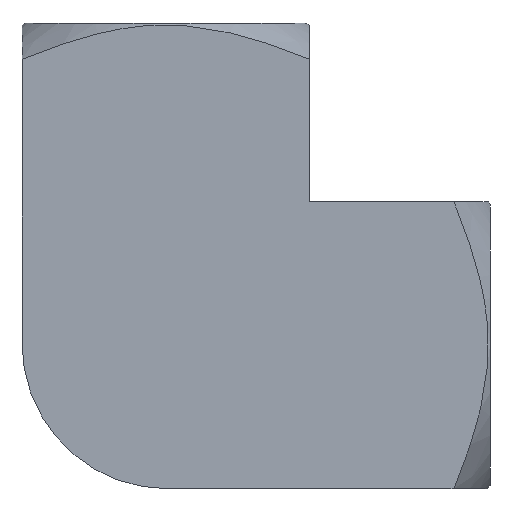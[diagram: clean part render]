
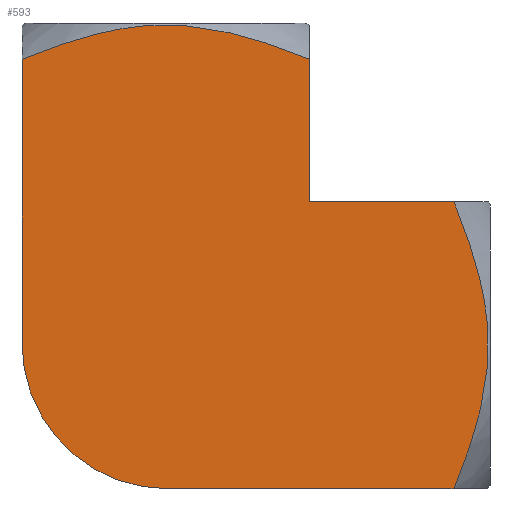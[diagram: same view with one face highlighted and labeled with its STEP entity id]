
A CAD part, front view. The second image highlights one B-rep face of the part: STEP entity #593.
In plain terms, the highlighted planar face has unit normal (0, -1, 0).
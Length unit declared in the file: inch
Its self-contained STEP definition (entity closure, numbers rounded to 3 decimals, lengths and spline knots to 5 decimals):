
#17=(
BOUNDED_CURVE()
B_SPLINE_CURVE(2,(#1177,#1178,#1179),.UNSPECIFIED.,.F.,.F.)
B_SPLINE_CURVE_WITH_KNOTS((3,3),(0.,1.80202),.UNSPECIFIED.)
CURVE()
GEOMETRIC_REPRESENTATION_ITEM()
RATIONAL_B_SPLINE_CURVE((1.,1.414,1.))
REPRESENTATION_ITEM('')
);
#18=(
BOUNDED_CURVE()
B_SPLINE_CURVE(2,(#1185,#1186,#1187),.UNSPECIFIED.,.F.,.F.)
B_SPLINE_CURVE_WITH_KNOTS((3,3),(0.,1.80276),.UNSPECIFIED.)
CURVE()
GEOMETRIC_REPRESENTATION_ITEM()
RATIONAL_B_SPLINE_CURVE((1.,1.414,1.))
REPRESENTATION_ITEM('')
);
#53=PLANE('',#668);
#91=FACE_OUTER_BOUND('',#129,.T.);
#129=EDGE_LOOP('',(#488,#489,#490,#491,#492,#493,#494,#495,#496));
#153=LINE('',#1155,#185);
#159=LINE('',#1175,#191);
#160=LINE('',#1181,#192);
#161=LINE('',#1183,#193);
#162=LINE('',#1189,#194);
#163=LINE('',#1190,#195);
#185=VECTOR('',#798,0.3937);
#191=VECTOR('',#806,0.3937);
#192=VECTOR('',#807,0.3937);
#193=VECTOR('',#808,0.3937);
#194=VECTOR('',#809,0.3937);
#195=VECTOR('',#810,0.3937);
#225=CIRCLE('',#665,0.35);
#268=VERTEX_POINT('',#1145);
#269=VERTEX_POINT('',#1146);
#272=VERTEX_POINT('',#1154);
#279=VERTEX_POINT('',#1174);
#280=VERTEX_POINT('',#1176);
#281=VERTEX_POINT('',#1180);
#282=VERTEX_POINT('',#1182);
#283=VERTEX_POINT('',#1184);
#284=VERTEX_POINT('',#1188);
#342=EDGE_CURVE('',#268,#269,#225,.T.);
#346=EDGE_CURVE('',#269,#272,#153,.T.);
#354=EDGE_CURVE('',#279,#268,#159,.T.);
#355=EDGE_CURVE('',#280,#279,#17,.T.);
#356=EDGE_CURVE('',#280,#281,#160,.T.);
#357=EDGE_CURVE('',#282,#281,#161,.T.);
#358=EDGE_CURVE('',#283,#282,#18,.T.);
#359=EDGE_CURVE('',#284,#283,#162,.T.);
#360=EDGE_CURVE('',#284,#272,#163,.T.);
#488=ORIENTED_EDGE('',*,*,#342,.F.);
#489=ORIENTED_EDGE('',*,*,#354,.F.);
#490=ORIENTED_EDGE('',*,*,#355,.F.);
#491=ORIENTED_EDGE('',*,*,#356,.T.);
#492=ORIENTED_EDGE('',*,*,#357,.F.);
#493=ORIENTED_EDGE('',*,*,#358,.F.);
#494=ORIENTED_EDGE('',*,*,#359,.F.);
#495=ORIENTED_EDGE('',*,*,#360,.T.);
#496=ORIENTED_EDGE('',*,*,#346,.F.);
#593=ADVANCED_FACE('',(#91),#53,.F.);
#665=AXIS2_PLACEMENT_3D('',#1147,#790,#791);
#668=AXIS2_PLACEMENT_3D('',#1173,#804,#805);
#790=DIRECTION('center_axis',(0.,1.,0.));
#791=DIRECTION('ref_axis',(-0.707,0.,-0.707));
#798=DIRECTION('',(0.,0.,1.));
#804=DIRECTION('center_axis',(0.,1.,0.));
#805=DIRECTION('ref_axis',(0.,0.,-1.));
#806=DIRECTION('',(-1.,0.,0.));
#807=DIRECTION('',(-1.,0.,0.));
#808=DIRECTION('',(0.,0.,-1.));
#809=DIRECTION('',(0.,0.,1.));
#810=DIRECTION('',(-1.,0.,0.));
#1145=CARTESIAN_POINT('',(0.0045,-0.345,-0.345));
#1146=CARTESIAN_POINT('',(-0.3455,-0.345,0.005));
#1147=CARTESIAN_POINT('Origin',(0.0045,-0.345,0.005));
#1154=CARTESIAN_POINT('',(-0.3455,-0.345,0.345));
#1155=CARTESIAN_POINT('',(-0.3455,-0.345,0.1725));
#1173=CARTESIAN_POINT('Origin',(0.7805,-0.345,0.345));
#1174=CARTESIAN_POINT('',(0.6939,-0.345,-0.345));
#1175=CARTESIAN_POINT('',(0.,-0.345,-0.345));
#1176=CARTESIAN_POINT('',(0.6939,-0.345,0.345));
#1177=CARTESIAN_POINT('Ctrl Pts',(0.6939,-0.345,0.345));
#1178=CARTESIAN_POINT('Ctrl Pts',(0.83474,-0.345,0.));
#1179=CARTESIAN_POINT('Ctrl Pts',(0.6939,-0.345,-0.345));
#1180=CARTESIAN_POINT('',(0.34514,-0.345,0.345));
#1181=CARTESIAN_POINT('',(0.,-0.345,0.345));
#1182=CARTESIAN_POINT('',(0.34514,-0.345,0.6884));
#1183=CARTESIAN_POINT('',(0.34514,-0.345,0.345));
#1184=CARTESIAN_POINT('',(-0.34514,-0.345,0.6884));
#1185=CARTESIAN_POINT('Ctrl Pts',(-0.34514,-0.345,0.6884));
#1186=CARTESIAN_POINT('Ctrl Pts',(0.,-0.345,0.82933));
#1187=CARTESIAN_POINT('Ctrl Pts',(0.34514,-0.345,0.6884));
#1188=CARTESIAN_POINT('',(-0.34514,-0.345,0.345));
#1189=CARTESIAN_POINT('',(-0.34514,-0.345,0.345));
#1190=CARTESIAN_POINT('',(0.,-0.345,0.345));
